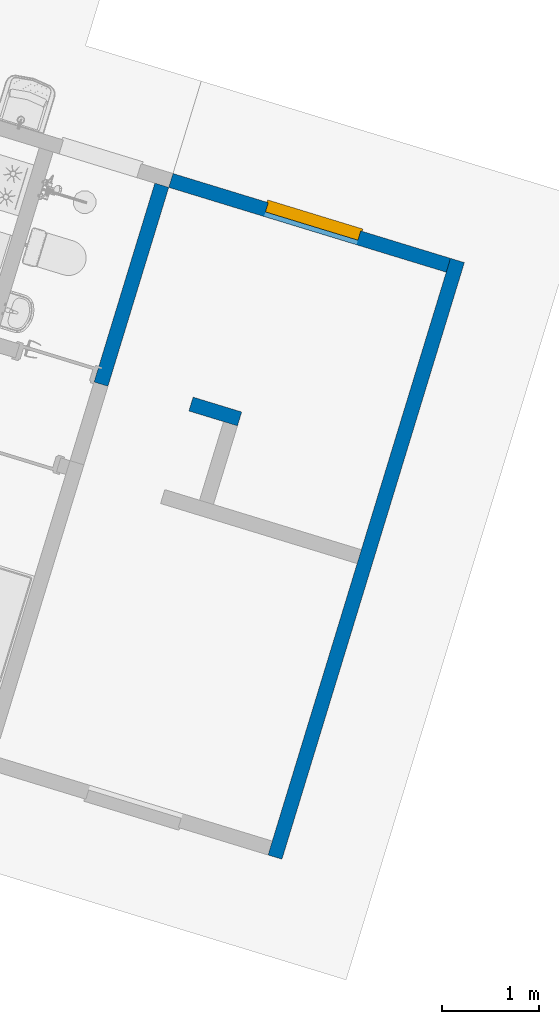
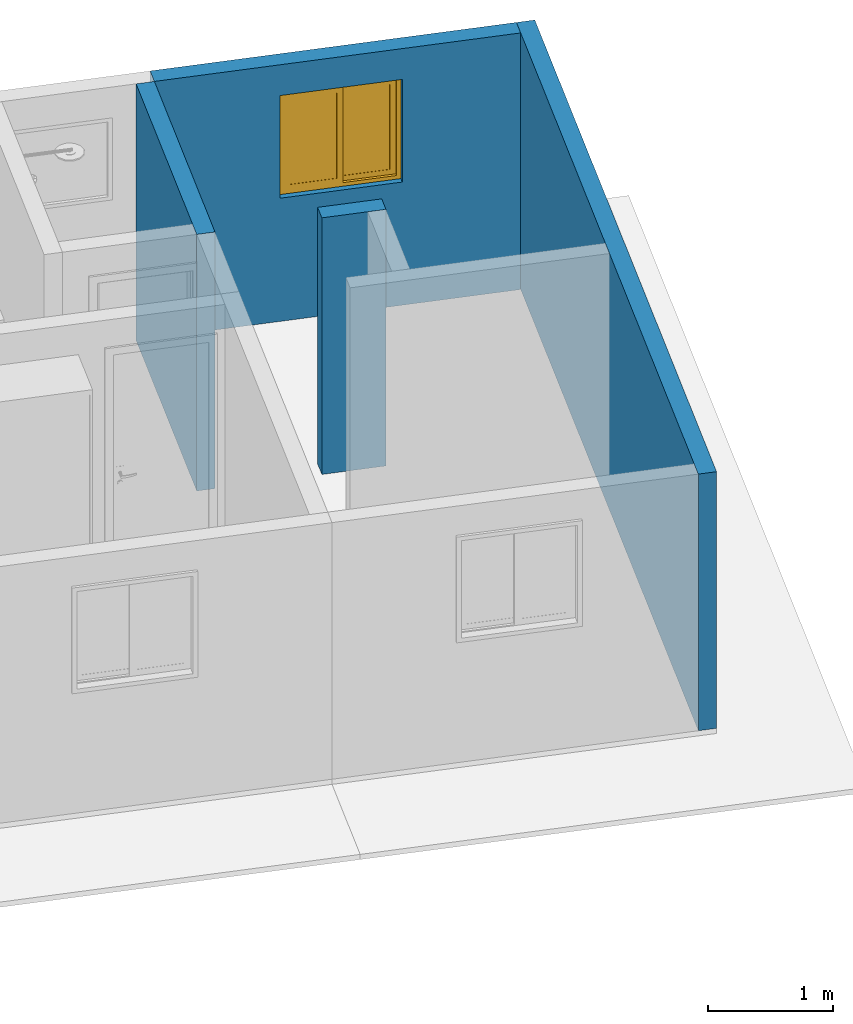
# One storey, part 8 of 13: 4 walls, 1 window, 1 opening.
"""IFC2X3 building model written with IfcOpenShell, lengths in millimetres."""

from ifc_helpers import new_model, entity, si_unit, converted_unit, derived_unit, money_unit, direction, frame, origin_with_axes, place, context, subcontext, project, spatial, open_shell, faceted_brep, surface_model, material, type_object, element, fill, save


model = new_model("IFC2X3")

# Units and contexts
model_context = context("Model", 3, precision=0.01, world=origin_with_axes(), true_north=direction((0.0, 1.0)))
body_context = subcontext(model_context, "Body", "Model", "MODEL_VIEW")
ifc_project = project(units=[si_unit("LENGTHUNIT", "METRE", prefix="MILLI"), si_unit("AREAUNIT", "SQUARE_METRE"), si_unit("VOLUMEUNIT", "CUBIC_METRE"), converted_unit("PLANEANGLEUNIT", "DEGREE", entity("IfcPlaneAngleMeasure", 0.0174532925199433), si_unit("PLANEANGLEUNIT", "RADIAN"), dimensions=[0, 0, 0, 0, 0, 0, 0]), money_unit("USD"), converted_unit("TIMEUNIT", "Year", entity("IfcTimeMeasure", 31557600.0), si_unit("TIMEUNIT", "SECOND"), dimensions=[0, 0, 1, 0, 0, 0, 0]), si_unit("MASSUNIT", "GRAM", prefix="KILO"), si_unit("THERMODYNAMICTEMPERATUREUNIT", "DEGREE_CELSIUS"), si_unit("LUMINOUSINTENSITYUNIT", "LUMEN"), si_unit("ENERGYUNIT", "JOULE", prefix="MEGA"), derived_unit("THERMALCONDUCTANCEUNIT", [(si_unit("POWERUNIT", "WATT"), 1), (si_unit("LENGTHUNIT", "METRE"), -1), (si_unit("THERMODYNAMICTEMPERATUREUNIT", "KELVIN"), -1)]), derived_unit("SPECIFICHEATCAPACITYUNIT", [(si_unit("ENERGYUNIT", "JOULE"), 1), (si_unit("MASSUNIT", "GRAM", prefix="KILO"), -1), (si_unit("THERMODYNAMICTEMPERATUREUNIT", "KELVIN"), -1)]), derived_unit("MASSDENSITYUNIT", [(si_unit("MASSUNIT", "GRAM", prefix="KILO"), 1), (si_unit("VOLUMEUNIT", "CUBIC_METRE"), -1)])], contexts=[model_context])

# Site, building, storey
site_placement = place(None, frame((0.0, 0.0, 0.0), z_axis=(0.0, 0.0, 1.0), x_axis=(0.9563047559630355, -0.2923717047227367, 0.0)))
site = spatial("IfcSite", under=ifc_project, at=site_placement, Name="Site", CompositionType="ELEMENT")
building_placement = place(site_placement, origin_with_axes())
building = spatial("IfcBuilding", under=site, at=building_placement, Name="Casa Térrea Isolada", CompositionType="ELEMENT")
storey_placement = place(building_placement, origin_with_axes())
storey = spatial("IfcBuildingStorey", under=building, at=storey_placement, Name="Terreo", CompositionType="ELEMENT", Elevation=0.0)

# Wall
ifc_material = material(Name="Bloco de Concreto - Estrutural")
wall_type = type_object("IfcWallType", Name="Bloco de Concreto - Estrutural 150", PredefinedType="NOTDEFINED")
wall_1_placement = place(storey_placement, frame((7775.003266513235, 4225.000524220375, 0.0), z_axis=(0.0, 0.0, 1.0), x_axis=(-0.9999999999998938, -4.610697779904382e-07, 0.0)))
element("IfcWall", 1, at=wall_1_placement, inside=storey, type_object=wall_type, material=ifc_material, Name="Parede 14", context=body_context, shape_type="Brep", body=[
    faceted_brep([(-75.00000000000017, -75.00000000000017, 2500.0), (450.0022980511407, -74.99999999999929, 2500.0), (450.0022980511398, 75.00000000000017, 2500.0), (-75.00000000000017, 75.00000000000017, 2500.0), (-75.00000000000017, -75.00000000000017, 0.0), (450.0022980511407, -74.99999999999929, 0.0), (450.0022980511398, 75.00000000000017, 0.0), (-75.00000000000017, 75.00000000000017, 0.0)], [[[0, 1, 2, 3]], [[4, 5, 1, 0]], [[2, 1, 5, 6]], [[3, 2, 6, 7]], [[4, 0, 3, 7]], [[7, 6, 5, 4]]]),
])

# Wall, opening, window
wall_2_placement = place(storey_placement, frame((9524.999977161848, 6375.001417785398, 0.0), z_axis=(0.0, 0.0, 1.0), x_axis=(-0.9999999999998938, -4.610697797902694e-07, 0.0)))
wall_2 = element("IfcWall", 2, at=wall_2_placement, inside=storey, type_object=wall_type, material=ifc_material, Name="Parede 13", context=body_context, shape_type="Brep", body=[
    faceted_brep([(2045.000092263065, 74.99999999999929, 2200.0), (2045.000092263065, -75.00000000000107, 2200.0), (1045.000092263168, -75.00000000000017, 2200.0), (1045.000092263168, 74.99999999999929, 2200.0), (2045.000092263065, -75.00000000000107, 1200.0), (2045.000092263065, 74.99999999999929, 1200.0), (3075.000000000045, -75.00000000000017, 2500.0), (74.99999999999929, -75.00000000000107, 2500.0), (74.99999999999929, -75.00000000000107, 0.0), (3075.000000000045, -75.00000000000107, 0.0), (1045.000092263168, -75.00000000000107, 1200.0), (1045.000092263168, 74.99999999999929, 1200.0), (3075.000000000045, 74.99999999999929, 0.0), (74.99999999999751, 74.99999999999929, 0.0), (74.99999999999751, 74.99999999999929, 2500.0), (3075.000000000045, 74.99999999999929, 2500.0)], [[[0, 1, 2, 3]], [[4, 1, 0, 5]], [[6, 7, 8, 9], [4, 10, 2, 1]], [[3, 2, 10, 11]], [[12, 13, 14, 15], [0, 3, 11, 5]], [[10, 4, 5, 11]], [[15, 14, 7, 6]], [[14, 13, 8, 7]], [[9, 8, 13, 12]], [[9, 12, 15, 6]]]),
])
opening_placement = place(wall_2_placement, frame((1545.00009226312, 0.0, 1200.0), z_axis=(0.0, 0.0, 1.0), x_axis=(1.0, 0.0, 0.0)))
opening = element("IfcOpeningElement", 3, at=opening_placement, cuts=wall_2, Name="J06", context=body_context, shape_type="Brep", body=[
    faceted_brep([(-499.9999999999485, -75.00000000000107, 0.0), (-499.9999999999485, -75.00000000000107, 1000.0), (-499.9999999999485, 24.99999999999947, 1000.0), (-499.9999999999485, 24.99999999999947, 0.0), (-514.9999999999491, -75.00000000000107, -14.9999999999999), (-514.9999999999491, -75.00000000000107, 1015.0), (514.9999999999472, -75.00000000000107, 1015.0), (514.9999999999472, -75.00000000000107, -14.9999999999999), (499.9999999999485, -75.00000000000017, 1000.0), (499.9999999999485, -75.00000000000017, 0.0), (499.9999999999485, 24.99999999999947, 1000.0), (499.9999999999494, 76.00141778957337, 1000.0), (-499.9999999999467, 76.00141778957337, 1000.0), (-499.9999999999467, 76.00141778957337, 0.0), (499.9999999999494, 76.00141778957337, 0.0), (499.9999999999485, 24.99999999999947, 0.0), (-514.9999999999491, -76.00141778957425, -14.9999999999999), (-514.9999999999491, -76.00141778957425, 1015.0), (514.9999999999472, -76.00141778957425, 1015.0), (514.9999999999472, -76.00141778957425, -14.9999999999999)], [[[0, 1, 2, 3]], [[4, 5, 6, 7], [8, 1, 0, 9]], [[1, 8, 10, 11, 12, 2]], [[3, 2, 12, 13]], [[9, 0, 3, 13, 14, 15]], [[5, 4, 16, 17]], [[6, 5, 17, 18]], [[7, 6, 18, 19]], [[4, 7, 19, 16]], [[8, 9, 15, 10]], [[10, 15, 14, 11]], [[11, 14, 13, 12]], [[18, 17, 16, 19]]]),
])
window_style = type_object("IfcWindowStyle", Name="Janela 26", ConstructionType="NOTDEFINED", OperationType="DOUBLE_PANEL_VERTICAL", ParameterTakesPrecedence=False, Sizeable=False)
window_placement = place(opening_placement, frame((-499.9999999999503, 0.0, 0.0), z_axis=(0.0, 0.0, 1.0), x_axis=(1.0, 0.0, 0.0)))
window = element("IfcWindow", 4, at=window_placement, inside=storey, type_object=window_style, Name="J06", OverallHeight=1000.0, OverallWidth=1000.0, context=body_context, shape_type="SurfaceModel", body=[
    faceted_brep([(999.999999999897, -25.00000000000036, 0.0), (999.999999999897, -75.00000000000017, 0.0), (0.0, -75.00000000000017, 0.0), (0.0, -25.00000000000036, 0.0), (999.999999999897, -25.00000000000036, 1000.0), (999.999999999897, -75.00000000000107, 1000.0), (0.0, -75.00000000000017, 1000.0), (974.9999999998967, -75.00000000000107, 24.99999999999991), (25.00000000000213, -75.00000000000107, 24.99999999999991), (25.00000000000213, -75.00000000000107, 975.0000000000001), (974.9999999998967, -75.00000000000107, 975.0000000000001), (0.0, -25.00000000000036, 1000.0), (974.9999999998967, -25.00000000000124, 24.99999999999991), (974.9999999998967, -25.00000000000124, 975.0000000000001), (25.00000000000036, -25.00000000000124, 975.0000000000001), (25.00000000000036, -25.00000000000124, 24.99999999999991)], [[[0, 1, 2, 3]], [[4, 5, 1, 0]], [[1, 5, 6, 2], [7, 8, 9, 10]], [[3, 2, 6, 11]], [[0, 3, 11, 4], [12, 13, 14, 15]], [[11, 6, 5, 4]], [[15, 8, 7, 12]], [[14, 9, 8, 15]], [[13, 10, 9, 14]], [[12, 7, 10, 13]]]),
    faceted_brep([(1014.999999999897, -100.0000000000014, -14.9999999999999), (974.9999999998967, -100.0000000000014, 24.99999999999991), (974.9999999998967, -75.00000000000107, 24.99999999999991), (1014.999999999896, -75.00000000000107, -14.9999999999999), (1014.999999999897, -100.0000000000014, 1015.0), (974.9999999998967, -100.0000000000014, 975.0000000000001), (974.9999999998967, -75.00000000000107, 975.0000000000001), (1014.999999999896, -75.00000000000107, 1015.0)], [[[0, 1, 2, 3]], [[0, 4, 5, 1]], [[1, 5, 6, 2]], [[3, 2, 6, 7]], [[4, 0, 3, 7]], [[5, 4, 7, 6]]]),
    faceted_brep([(-14.99999999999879, -100.0000000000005, 1015.0), (25.00000000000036, -100.0000000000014, 975.0000000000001), (25.00000000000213, -75.00000000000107, 975.0000000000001), (-15.00000000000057, -75.00000000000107, 1015.0), (-14.99999999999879, -100.0000000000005, -14.9999999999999), (25.00000000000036, -100.0000000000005, 24.99999999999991), (25.00000000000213, -75.00000000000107, 24.99999999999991), (-15.00000000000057, -75.00000000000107, -14.9999999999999)], [[[0, 1, 2, 3]], [[0, 4, 5, 1]], [[1, 5, 6, 2]], [[3, 2, 6, 7]], [[4, 0, 3, 7]], [[5, 4, 7, 6]]]),
    faceted_brep([(-14.99999999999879, -100.0000000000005, -14.9999999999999), (25.00000000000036, -100.0000000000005, 24.99999999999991), (25.00000000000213, -75.00000000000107, 24.99999999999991), (-15.00000000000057, -75.00000000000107, -14.9999999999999), (1014.999999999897, -100.0000000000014, -14.9999999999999), (974.9999999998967, -100.0000000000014, 24.99999999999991), (974.9999999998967, -75.00000000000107, 24.99999999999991), (1014.999999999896, -75.00000000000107, -14.9999999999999)], [[[0, 1, 2, 3]], [[0, 4, 5, 1]], [[1, 5, 6, 2]], [[3, 2, 6, 7]], [[4, 0, 3, 7]], [[5, 4, 7, 6]]]),
    faceted_brep([(1014.999999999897, -100.0000000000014, 1015.0), (974.9999999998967, -100.0000000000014, 975.0000000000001), (974.9999999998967, -75.00000000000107, 975.0000000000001), (1014.999999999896, -75.00000000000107, 1015.0), (-14.99999999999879, -100.0000000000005, 1015.0), (25.00000000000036, -100.0000000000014, 975.0000000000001), (25.00000000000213, -75.00000000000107, 975.0000000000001), (-15.00000000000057, -75.00000000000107, 1015.0)], [[[0, 1, 2, 3]], [[0, 4, 5, 1]], [[1, 5, 6, 2]], [[3, 2, 6, 7]], [[4, 0, 3, 7]], [[5, 4, 7, 6]]]),
    faceted_brep([(964.9999999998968, -25.00000000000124, 964.9999999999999), (999.999999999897, -25.00000000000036, 964.9999999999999), (999.999999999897, 24.99999999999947, 964.9999999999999), (964.9999999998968, 24.99999999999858, 964.9999999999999), (964.9999999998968, -25.00000000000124, 34.99999999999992), (999.999999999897, -25.00000000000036, 34.99999999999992), (999.999999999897, 24.99999999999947, 34.99999999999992), (964.9999999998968, 24.99999999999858, 34.99999999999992)], [[[0, 1, 2, 3]], [[0, 4, 5, 1]], [[1, 5, 6, 2]], [[3, 2, 6, 7]], [[4, 0, 3, 7]], [[5, 4, 7, 6]]]),
    faceted_brep([(35.00000000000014, -25.00000000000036, 34.99999999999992), (0.0, -25.00000000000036, 34.99999999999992), (0.0, 24.99999999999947, 34.99999999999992), (35.00000000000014, 24.99999999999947, 34.99999999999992), (35.00000000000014, -25.00000000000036, 964.9999999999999), (0.0, -25.00000000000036, 964.9999999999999), (0.0, 24.99999999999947, 964.9999999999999), (35.00000000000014, 24.99999999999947, 964.9999999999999)], [[[0, 1, 2, 3]], [[0, 4, 5, 1]], [[1, 5, 6, 2]], [[3, 2, 6, 7]], [[4, 0, 3, 7]], [[5, 4, 7, 6]]]),
    faceted_brep([(964.9999999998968, -25.00000000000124, 34.99999999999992), (999.999999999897, -25.00000000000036, 34.99999999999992), (999.999999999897, 24.99999999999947, 34.99999999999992), (964.9999999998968, 24.99999999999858, 34.99999999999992), (35.00000000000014, -25.00000000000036, 34.99999999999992), (0.0, -25.00000000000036, 34.99999999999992), (0.0, -25.00000000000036, 0.0), (999.999999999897, -25.00000000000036, 0.0), (999.999999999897, 24.99999999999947, 0.0), (0.0, 24.99999999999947, 0.0), (0.0, 24.99999999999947, 34.99999999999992), (35.00000000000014, 24.99999999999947, 34.99999999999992)], [[[0, 1, 2, 3]], [[0, 4, 5, 6, 7, 1]], [[1, 7, 8, 2]], [[3, 2, 8, 9, 10, 11]], [[4, 0, 3, 11]], [[5, 4, 11, 10]], [[6, 5, 10, 9]], [[7, 6, 9, 8]]]),
    faceted_brep([(35.00000000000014, -25.00000000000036, 964.9999999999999), (0.0, -25.00000000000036, 964.9999999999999), (0.0, 24.99999999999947, 964.9999999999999), (35.00000000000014, 24.99999999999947, 964.9999999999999), (964.9999999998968, -25.00000000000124, 964.9999999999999), (999.999999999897, -25.00000000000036, 964.9999999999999), (999.999999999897, -25.00000000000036, 1000.0), (0.0, -25.00000000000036, 1000.0), (0.0, 24.99999999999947, 1000.0), (999.999999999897, 24.99999999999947, 1000.0), (999.999999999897, 24.99999999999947, 964.9999999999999), (964.9999999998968, 24.99999999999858, 964.9999999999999)], [[[0, 1, 2, 3]], [[0, 4, 5, 6, 7, 1]], [[1, 7, 8, 2]], [[3, 2, 8, 9, 10, 11]], [[4, 0, 3, 11]], [[5, 4, 11, 10]], [[6, 5, 10, 9]], [[7, 6, 9, 8]]]),
    faceted_brep([(474.9999999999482, -25.00000000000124, 915.0), (524.9999999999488, -25.00000000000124, 915.0), (524.9999999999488, 0.0, 915.0), (474.9999999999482, 0.0, 915.0), (474.9999999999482, -25.00000000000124, 84.99999999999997), (524.9999999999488, -25.00000000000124, 84.99999999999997), (524.9999999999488, 0.0, 84.99999999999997), (474.9999999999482, 0.0, 84.99999999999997)], [[[0, 1, 2, 3]], [[0, 4, 5, 1]], [[1, 5, 6, 2]], [[3, 2, 6, 7]], [[4, 0, 3, 7]], [[5, 4, 7, 6]]]),
    faceted_brep([(84.99999999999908, -25.00000000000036, 84.99999999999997), (35.00000000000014, -25.00000000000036, 84.99999999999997), (35.00000000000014, 0.0, 84.99999999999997), (85.00000000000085, 0.0, 84.99999999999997), (84.99999999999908, -25.00000000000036, 915.0), (35.00000000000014, -25.00000000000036, 915.0), (35.00000000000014, 0.0, 915.0), (85.00000000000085, 0.0, 915.0)], [[[0, 1, 2, 3]], [[0, 4, 5, 1]], [[1, 5, 6, 2]], [[3, 2, 6, 7]], [[4, 0, 3, 7]], [[5, 4, 7, 6]]]),
    faceted_brep([(35.00000000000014, -25.00000000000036, 34.99999999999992), (35.00000000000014, -25.00000000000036, 84.99999999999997), (35.00000000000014, 0.0, 84.99999999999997), (35.00000000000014, 0.0, 34.99999999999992), (524.9999999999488, -25.00000000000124, 34.99999999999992), (524.9999999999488, -25.00000000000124, 84.99999999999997), (474.9999999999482, -25.00000000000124, 84.99999999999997), (84.99999999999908, -25.00000000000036, 84.99999999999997), (85.00000000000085, 0.0, 84.99999999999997), (474.9999999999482, 0.0, 84.99999999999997), (524.9999999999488, 0.0, 84.99999999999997), (524.9999999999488, 0.0, 34.99999999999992)], [[[0, 1, 2, 3]], [[0, 4, 5, 6, 7, 1]], [[1, 7, 8, 2]], [[3, 2, 8, 9, 10, 11]], [[4, 0, 3, 11]], [[5, 4, 11, 10]], [[6, 5, 10, 9]], [[7, 6, 9, 8]]]),
    faceted_brep([(524.9999999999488, -25.00000000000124, 964.9999999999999), (524.9999999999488, -25.00000000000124, 915.0), (524.9999999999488, 0.0, 915.0), (524.9999999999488, 0.0, 964.9999999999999), (35.00000000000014, -25.00000000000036, 964.9999999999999), (35.00000000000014, -25.00000000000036, 915.0), (84.99999999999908, -25.00000000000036, 915.0), (474.9999999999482, -25.00000000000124, 915.0), (474.9999999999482, 0.0, 915.0), (85.00000000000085, 0.0, 915.0), (35.00000000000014, 0.0, 915.0), (35.00000000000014, 0.0, 964.9999999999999)], [[[0, 1, 2, 3]], [[0, 4, 5, 6, 7, 1]], [[1, 7, 8, 2]], [[3, 2, 8, 9, 10, 11]], [[4, 0, 3, 11]], [[5, 4, 11, 10]], [[6, 5, 10, 9]], [[7, 6, 9, 8]]]),
    surface_model("IfcShellBasedSurfaceModel", [(474.9999999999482, -22.50000000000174, 84.99999999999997), (474.9999999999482, -22.50000000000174, 915.0), (84.99999999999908, -22.50000000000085, 915.0), (84.99999999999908, -22.50000000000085, 84.99999999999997)], [open_shell([[[0, 1, 2, 3]]])]),
    surface_model("IfcShellBasedSurfaceModel", [(474.9999999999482, -2.500000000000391, 84.99999999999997), (85.00000000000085, -2.500000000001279, 84.99999999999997), (85.00000000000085, -2.500000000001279, 915.0), (474.9999999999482, -2.500000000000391, 915.0)], [open_shell([[[0, 1, 2, 3]]])]),
    faceted_brep([(914.9999999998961, 0.0, 915.0), (964.9999999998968, 0.0, 915.0), (964.9999999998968, 24.99999999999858, 915.0), (914.999999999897, 24.99999999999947, 915.0), (914.9999999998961, 0.0, 84.99999999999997), (964.9999999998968, 0.0, 84.99999999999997), (964.9999999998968, 24.99999999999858, 84.99999999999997), (914.999999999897, 24.99999999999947, 84.99999999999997)], [[[0, 1, 2, 3]], [[0, 4, 5, 1]], [[1, 5, 6, 2]], [[3, 2, 6, 7]], [[4, 0, 3, 7]], [[5, 4, 7, 6]]]),
    faceted_brep([(524.9999999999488, 0.0, 84.99999999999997), (474.9999999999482, 0.0, 84.99999999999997), (474.9999999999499, 24.99999999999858, 84.99999999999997), (524.9999999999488, 24.99999999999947, 84.99999999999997), (524.9999999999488, 0.0, 915.0), (474.9999999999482, 0.0, 915.0), (474.9999999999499, 24.99999999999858, 915.0), (524.9999999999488, 24.99999999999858, 915.0)], [[[0, 1, 2, 3]], [[0, 4, 5, 1]], [[1, 5, 6, 2]], [[3, 2, 6, 7]], [[4, 0, 3, 7]], [[5, 4, 7, 6]]]),
    faceted_brep([(474.9999999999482, 0.0, 34.99999999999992), (474.9999999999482, 0.0, 84.99999999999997), (474.9999999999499, 24.99999999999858, 84.99999999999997), (474.9999999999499, 24.99999999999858, 34.99999999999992), (964.9999999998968, 0.0, 34.99999999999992), (964.9999999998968, 0.0, 84.99999999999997), (914.9999999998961, 0.0, 84.99999999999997), (524.9999999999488, 0.0, 84.99999999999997), (524.9999999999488, 24.99999999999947, 84.99999999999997), (914.999999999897, 24.99999999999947, 84.99999999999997), (964.9999999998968, 24.99999999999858, 84.99999999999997), (964.9999999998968, 24.99999999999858, 34.99999999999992)], [[[0, 1, 2, 3]], [[0, 4, 5, 6, 7, 1]], [[1, 7, 8, 2]], [[3, 2, 8, 9, 10, 11]], [[4, 0, 3, 11]], [[5, 4, 11, 10]], [[6, 5, 10, 9]], [[7, 6, 9, 8]]]),
    faceted_brep([(964.9999999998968, 0.0, 964.9999999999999), (964.9999999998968, 0.0, 915.0), (964.9999999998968, 24.99999999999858, 915.0), (964.9999999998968, 24.99999999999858, 964.9999999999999), (474.9999999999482, 0.0, 964.9999999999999), (474.9999999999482, 0.0, 915.0), (524.9999999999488, 0.0, 915.0), (914.9999999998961, 0.0, 915.0), (914.999999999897, 24.99999999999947, 915.0), (524.9999999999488, 24.99999999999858, 915.0), (474.9999999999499, 24.99999999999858, 915.0), (474.9999999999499, 24.99999999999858, 964.9999999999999)], [[[0, 1, 2, 3]], [[0, 4, 5, 6, 7, 1]], [[1, 7, 8, 2]], [[3, 2, 8, 9, 10, 11]], [[4, 0, 3, 11]], [[5, 4, 11, 10]], [[6, 5, 10, 9]], [[7, 6, 9, 8]]]),
    surface_model("IfcShellBasedSurfaceModel", [(914.9999999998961, 2.499999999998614, 84.99999999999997), (914.9999999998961, 2.499999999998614, 915.0), (524.9999999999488, 2.499999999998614, 915.0), (524.9999999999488, 2.499999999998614, 84.99999999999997)], [open_shell([[[0, 1, 2, 3]]])]),
    surface_model("IfcShellBasedSurfaceModel", [(914.999999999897, 22.49999999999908, 84.99999999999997), (524.9999999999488, 22.49999999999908, 84.99999999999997), (524.9999999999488, 22.49999999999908, 915.0), (914.999999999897, 22.49999999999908, 915.0)], [open_shell([[[0, 1, 2, 3]]])]),
])
fill(opening, window)

# Walls
wall_3_placement = place(storey_placement, frame((9525.00288190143, 75.00148694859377, 0.0), z_axis=(0.0, 0.0, 1.0), x_axis=(-4.610697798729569e-07, 0.9999999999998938, 0.0)))
element("IfcWall", 5, at=wall_3_placement, inside=storey, type_object=wall_type, material=ifc_material, Name="Parede 18", context=body_context, shape_type="Brep", body=[
    faceted_brep([(6374.999930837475, -75.00000000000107, 2500.0), (6374.999930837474, 74.99999999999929, 2500.0), (-74.99999999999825, 74.99999999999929, 2500.0), (-74.9999999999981, -75.00000000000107, 2500.0), (6374.999930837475, -75.00000000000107, 0.0), (6374.999930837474, 74.99999999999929, 0.0), (-74.99999999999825, 74.99999999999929, 0.0), (-74.9999999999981, -75.00000000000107, 0.0)], [[[0, 1, 2, 3]], [[1, 0, 4, 5]], [[1, 5, 6, 2]], [[7, 3, 2, 6]], [[4, 0, 3, 7]], [[5, 4, 7, 6]]]),
])
wall_4_placement = place(storey_placement, frame((6375.001003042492, 4149.999844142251, 0.0), z_axis=(0.0, 0.0, 1.0), x_axis=(-4.610697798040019e-07, 0.9999999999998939, 0.0)))
element("IfcWall", 6, at=wall_4_placement, inside=storey, type_object=wall_type, material=ifc_material, Name="Parede 08", context=body_context, shape_type="Brep", body=[
    faceted_brep([(2150.003095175, -74.99999999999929, 2500.0), (2150.003095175, 75.00000000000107, 2500.0), (0.0, 75.00000000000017, 2500.0), (0.0, -75.00000000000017, 2500.0), (2150.003095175, -74.99999999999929, 0.0), (2150.003095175, 75.00000000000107, 0.0), (0.0, 75.00000000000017, 0.0), (0.0, -75.00000000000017, 0.0)], [[[0, 1, 2, 3]], [[1, 0, 4, 5]], [[1, 5, 6, 2]], [[7, 3, 2, 6]], [[4, 0, 3, 7]], [[5, 4, 7, 6]]]),
])

save(model, "model.ifc")
